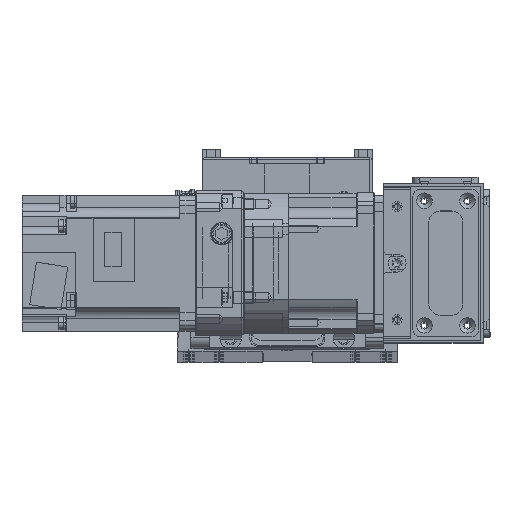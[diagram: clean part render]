
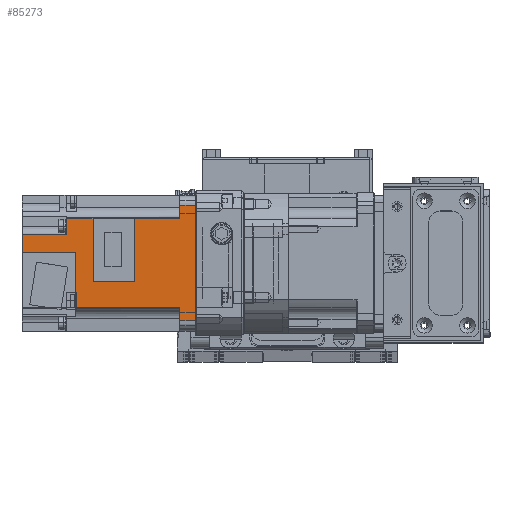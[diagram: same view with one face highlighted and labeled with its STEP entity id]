
A CAD part, top view. The second image highlights one B-rep face of the part: STEP entity #85273.
In plain terms, the highlighted planar face has unit normal (0, 0, 1) as drawn and (0, -1, 0) by its records, which use the part's own axes.
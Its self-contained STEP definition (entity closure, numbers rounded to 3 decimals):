
#7174=FACE_OUTER_BOUND('',#12018,.T.);
#12018=EDGE_LOOP('',(#69482,#69483,#69484,#69485,#69486,#69487,#69488,#69489,
#69490,#69491,#69492,#69493,#69494,#69495,#69496,#69497,#69498,#69499,#69500,
#69501));
#21268=LINE('',#137123,#30345);
#21298=LINE('',#137229,#30375);
#21301=LINE('',#137241,#30378);
#21343=LINE('',#137371,#30420);
#21404=LINE('',#137583,#30481);
#21405=LINE('',#137588,#30482);
#21406=LINE('',#137590,#30483);
#21407=LINE('',#137591,#30484);
#21408=LINE('',#137593,#30485);
#21409=LINE('',#137595,#30486);
#21410=LINE('',#137597,#30487);
#21411=LINE('',#137599,#30488);
#21412=LINE('',#137601,#30489);
#21413=LINE('',#137603,#30490);
#21414=LINE('',#137605,#30491);
#21415=LINE('',#137607,#30492);
#21416=LINE('',#137608,#30493);
#21417=LINE('',#137610,#30494);
#21418=LINE('',#137612,#30495);
#21419=LINE('',#137613,#30496);
#30345=VECTOR('',#109095,51.);
#30375=VECTOR('',#109183,3.41);
#30378=VECTOR('',#109192,2.444);
#30420=VECTOR('',#109312,7.8);
#30481=VECTOR('',#109549,5.941);
#30482=VECTOR('',#109556,7.);
#30483=VECTOR('',#109559,0.905);
#30484=VECTOR('',#109560,45.6);
#30485=VECTOR('',#109561,7.);
#30486=VECTOR('',#109562,5.941);
#30487=VECTOR('',#109563,19.9);
#30488=VECTOR('',#109564,27.559);
#30489=VECTOR('',#109565,18.35);
#30490=VECTOR('',#109566,27.559);
#30491=VECTOR('',#109567,11.85);
#30492=VECTOR('',#109568,7.059);
#30493=VECTOR('',#109569,19.5);
#30494=VECTOR('',#109570,23.5);
#30495=VECTOR('',#109571,17.5);
#30496=VECTOR('',#109572,0.5);
#39394=VERTEX_POINT('',#137120);
#39395=VERTEX_POINT('',#137122);
#39440=VERTEX_POINT('',#137225);
#39442=VERTEX_POINT('',#137228);
#39447=VERTEX_POINT('',#137238);
#39448=VERTEX_POINT('',#137240);
#39496=VERTEX_POINT('',#137368);
#39497=VERTEX_POINT('',#137370);
#39559=VERTEX_POINT('',#137580);
#39560=VERTEX_POINT('',#137582);
#39562=VERTEX_POINT('',#137592);
#39563=VERTEX_POINT('',#137594);
#39564=VERTEX_POINT('',#137596);
#39565=VERTEX_POINT('',#137598);
#39566=VERTEX_POINT('',#137600);
#39567=VERTEX_POINT('',#137602);
#39568=VERTEX_POINT('',#137604);
#39569=VERTEX_POINT('',#137606);
#39570=VERTEX_POINT('',#137609);
#39571=VERTEX_POINT('',#137611);
#49865=EDGE_CURVE('',#39394,#39395,#21268,.T.);
#49917=EDGE_CURVE('',#39440,#39442,#21298,.T.);
#49923=EDGE_CURVE('',#39447,#39448,#21301,.T.);
#49988=EDGE_CURVE('',#39496,#39497,#21343,.T.);
#50093=EDGE_CURVE('',#39560,#39559,#21404,.T.);
#50096=EDGE_CURVE('',#39559,#39395,#21405,.T.);
#50097=EDGE_CURVE('',#39448,#39440,#21406,.T.);
#50098=EDGE_CURVE('',#39560,#39447,#21407,.T.);
#50099=EDGE_CURVE('',#39562,#39394,#21408,.T.);
#50100=EDGE_CURVE('',#39562,#39563,#21409,.T.);
#50101=EDGE_CURVE('',#39563,#39564,#21410,.T.);
#50102=EDGE_CURVE('',#39564,#39565,#21411,.T.);
#50103=EDGE_CURVE('',#39565,#39566,#21412,.T.);
#50104=EDGE_CURVE('',#39566,#39567,#21413,.T.);
#50105=EDGE_CURVE('',#39568,#39567,#21414,.T.);
#50106=EDGE_CURVE('',#39569,#39568,#21415,.T.);
#50107=EDGE_CURVE('',#39497,#39569,#21416,.T.);
#50108=EDGE_CURVE('',#39496,#39570,#21417,.T.);
#50109=EDGE_CURVE('',#39571,#39570,#21418,.T.);
#50110=EDGE_CURVE('',#39442,#39571,#21419,.T.);
#69482=ORIENTED_EDGE('',*,*,#50097,.F.);
#69483=ORIENTED_EDGE('',*,*,#49923,.F.);
#69484=ORIENTED_EDGE('',*,*,#50098,.F.);
#69485=ORIENTED_EDGE('',*,*,#50093,.T.);
#69486=ORIENTED_EDGE('',*,*,#50096,.T.);
#69487=ORIENTED_EDGE('',*,*,#49865,.F.);
#69488=ORIENTED_EDGE('',*,*,#50099,.F.);
#69489=ORIENTED_EDGE('',*,*,#50100,.T.);
#69490=ORIENTED_EDGE('',*,*,#50101,.T.);
#69491=ORIENTED_EDGE('',*,*,#50102,.T.);
#69492=ORIENTED_EDGE('',*,*,#50103,.T.);
#69493=ORIENTED_EDGE('',*,*,#50104,.T.);
#69494=ORIENTED_EDGE('',*,*,#50105,.F.);
#69495=ORIENTED_EDGE('',*,*,#50106,.F.);
#69496=ORIENTED_EDGE('',*,*,#50107,.F.);
#69497=ORIENTED_EDGE('',*,*,#49988,.F.);
#69498=ORIENTED_EDGE('',*,*,#50108,.T.);
#69499=ORIENTED_EDGE('',*,*,#50109,.F.);
#69500=ORIENTED_EDGE('',*,*,#50110,.F.);
#69501=ORIENTED_EDGE('',*,*,#49917,.F.);
#81195=PLANE('',#92668);
#85273=ADVANCED_FACE('',(#7174),#81195,.F.);
#92668=AXIS2_PLACEMENT_3D('',#137589,#109557,#109558);
#109095=DIRECTION('',(1.,0.,0.));
#109183=DIRECTION('',(-1.,0.,0.));
#109192=DIRECTION('',(-1.,0.,0.));
#109312=DIRECTION('',(-1.,0.,0.));
#109549=DIRECTION('',(1.,0.,0.));
#109556=DIRECTION('',(0.,0.,1.));
#109557=DIRECTION('center_axis',(0.,1.,0.));
#109558=DIRECTION('ref_axis',(-1.,0.,0.));
#109559=DIRECTION('',(-1.,0.,0.));
#109560=DIRECTION('',(0.,0.,-1.));
#109561=DIRECTION('',(0.,0.,1.));
#109562=DIRECTION('',(1.,0.,0.));
#109563=DIRECTION('',(0.,0.,-1.));
#109564=DIRECTION('',(1.,0.,0.));
#109565=DIRECTION('',(0.,0.,-1.));
#109566=DIRECTION('',(-1.,0.,0.));
#109567=DIRECTION('',(0.,0.,1.));
#109568=DIRECTION('',(-1.,0.,0.));
#109569=DIRECTION('',(0.,0.,1.));
#109570=DIRECTION('',(0.,0.,1.));
#109571=DIRECTION('',(-1.,0.,0.));
#109572=DIRECTION('',(0.,0.,-1.));
#137120=CARTESIAN_POINT('',(-25.5,-30.,0.));
#137122=CARTESIAN_POINT('',(25.5,-30.,0.));
#137123=CARTESIAN_POINT('',(-25.5,-30.,0.));
#137225=CARTESIAN_POINT('',(16.21,-30.,-52.6));
#137228=CARTESIAN_POINT('',(12.8,-30.,-52.6));
#137229=CARTESIAN_POINT('',(16.21,-30.,-52.6));
#137238=CARTESIAN_POINT('',(19.559,-30.,-52.6));
#137240=CARTESIAN_POINT('',(17.115,-30.,-52.6));
#137241=CARTESIAN_POINT('',(19.559,-30.,-52.6));
#137368=CARTESIAN_POINT('',(-4.7,-30.,-76.6));
#137370=CARTESIAN_POINT('',(-12.5,-30.,-76.6));
#137371=CARTESIAN_POINT('',(-4.7,-30.,-76.6));
#137580=CARTESIAN_POINT('',(25.5,-30.,-7.));
#137582=CARTESIAN_POINT('',(19.559,-30.,-7.));
#137583=CARTESIAN_POINT('',(19.559,-30.,-7.));
#137588=CARTESIAN_POINT('',(25.5,-30.,-7.));
#137589=CARTESIAN_POINT('Origin',(0.,-30.,-3.9));
#137590=CARTESIAN_POINT('',(17.115,-30.,-52.6));
#137591=CARTESIAN_POINT('',(19.559,-30.,-7.));
#137592=CARTESIAN_POINT('',(-25.5,-30.,-7.));
#137593=CARTESIAN_POINT('',(-25.5,-30.,-7.));
#137594=CARTESIAN_POINT('',(-19.559,-30.,-7.));
#137595=CARTESIAN_POINT('',(-25.5,-30.,-7.));
#137596=CARTESIAN_POINT('',(-19.559,-30.,-26.9));
#137597=CARTESIAN_POINT('',(-19.559,-30.,-7.));
#137598=CARTESIAN_POINT('',(8.,-30.,-26.9));
#137599=CARTESIAN_POINT('',(-19.559,-30.,-26.9));
#137600=CARTESIAN_POINT('',(8.,-30.,-45.25));
#137601=CARTESIAN_POINT('',(8.,-30.,-26.9));
#137602=CARTESIAN_POINT('',(-19.559,-30.,-45.25));
#137603=CARTESIAN_POINT('',(8.,-30.,-45.25));
#137604=CARTESIAN_POINT('',(-19.559,-30.,-57.1));
#137605=CARTESIAN_POINT('',(-19.559,-30.,-57.1));
#137606=CARTESIAN_POINT('',(-12.5,-30.,-57.1));
#137607=CARTESIAN_POINT('',(-12.5,-30.,-57.1));
#137608=CARTESIAN_POINT('',(-12.5,-30.,-76.6));
#137609=CARTESIAN_POINT('',(-4.7,-30.,-53.1));
#137610=CARTESIAN_POINT('',(-4.7,-30.,-76.6));
#137611=CARTESIAN_POINT('',(12.8,-30.,-53.1));
#137612=CARTESIAN_POINT('',(12.8,-30.,-53.1));
#137613=CARTESIAN_POINT('',(12.8,-30.,-52.6));
